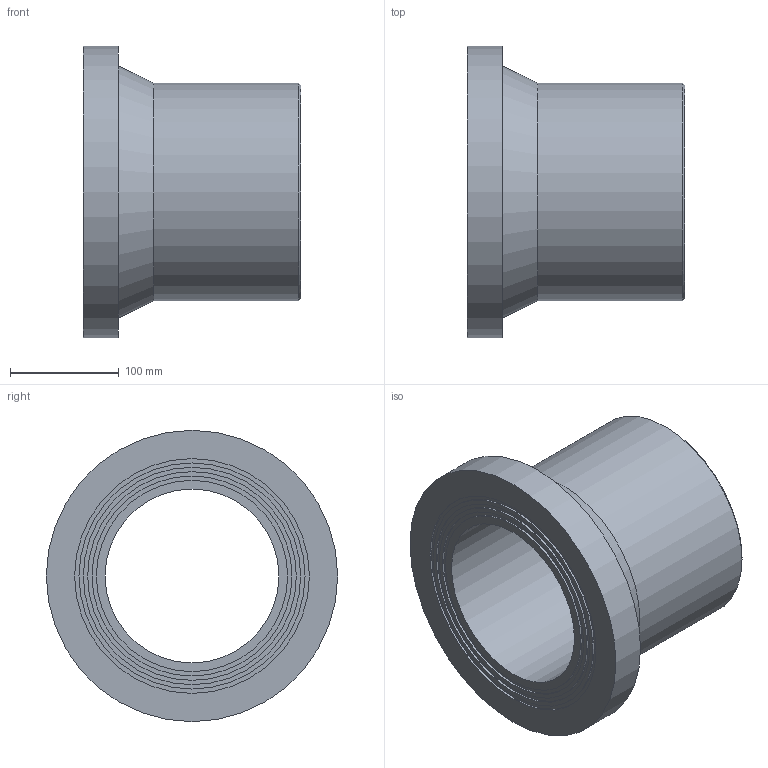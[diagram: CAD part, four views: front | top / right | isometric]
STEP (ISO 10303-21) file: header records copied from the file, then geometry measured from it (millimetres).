
FILE_DESCRIPTION(/* description */ ('Stub Flange 200'),/* implementation_level */ '2;1');
FILE_NAME(/* name */ 'C:\Dropbox\KIMPROJECTS-Inventor\99-16-3568-Processing\ElectroFusion Fittings\31.03.19\490207\490207200.ipt.stp',/* time_stamp */ '2019-03-31T18:57:50+03:00',/* author */ ('Кирилл'),/* organization */ (''),/* preprocessor_version */ 'ST-DEVELOPER v15.6',/* originating_system */ 'Autodesk Inventor 2015',/* authorisation */ '');
FILE_SCHEMA (('AUTOMOTIVE_DESIGN { 1 0 10303 214 3 1 1 }'));
Length unit declared in the file: millimetre
Products named in the file (1): 490207200
Bounding box: 200 x 268 x 268 mm (x, y, z)
Volume: 3220467.6 mm3; surface area: 305581.7 mm2
Topology: 1 solids, 1 shells, 20 faces, 31 edges, 20 vertices
Faces by surface type: cylinder 9, plane 9, cone 2
Full cylindrical faces by diameter (mm): 160 x1, 176 x1, 184 x1, 192 x1, 200 x2, 208 x1, 216 x1, 268 x1
Entity records: 432 total; most frequent: DIRECTION 82, CARTESIAN_POINT 61, AXIS2_PLACEMENT_3D 41, EDGE_LOOP 40, ORIENTED_EDGE 40, FACE_BOUND 20, FACE_OUTER_BOUND 20, CIRCLE 20
